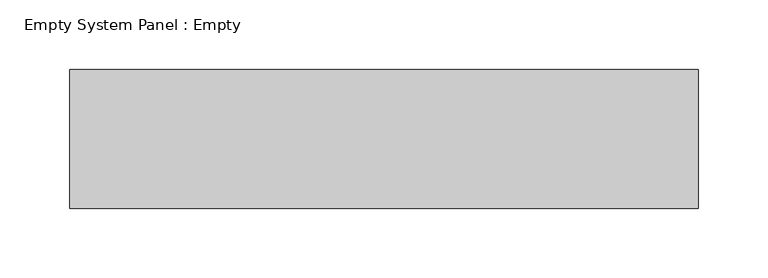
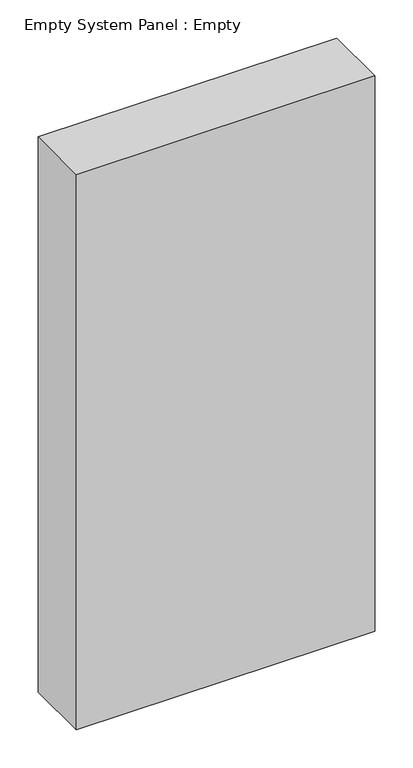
"""IFC4 building model written with IfcOpenShell, lengths in millimetres: plate geometry, Empty System Panel : Empty."""

from ifc_helpers import new_model, si_unit, origin, origin_with_axes, place, context, project, spatial, polyline, outline, extrude, source, transform, mapped, element, save


def empty_system_panel_empty_352b8546(model_context):
    return source(origin(), model_context, "Body", "SweptSolid", [
        extrude(outline(polyline([(226.25, -50.0), (-226.25, -50.0), (-226.25, 50.0), (226.25, 50.0), (226.25, -50.0)])), origin_with_axes(), (0.0, 0.0, 1.0), 890.0),
    ])


if __name__ == "__main__":
    model = new_model("IFC4")
    model_context = context("Model", 3, world=origin())
    ifc_project = project(units=[si_unit("LENGTHUNIT", "METRE", prefix="MILLI")], contexts=[model_context])
    site = spatial("IfcSite", under=ifc_project)
    building = spatial("IfcBuilding", under=site)
    placement = place(None, origin())
    empty_system_panel_empty_shape = empty_system_panel_empty_352b8546(model_context)
    element("IfcPlate", 1, ObjectType="Empty System Panel : Empty", at=placement, inside=building, context=model_context, shape_type="MappedRepresentation", body=[
        mapped(empty_system_panel_empty_shape, transform((0.0, 0.0, 0.0), x_axis=(1.0, 0.0, 0.0), y_axis=(0.0, 1.0, 0.0), z_axis=(0.0, 0.0, 1.0))),
    ])
    save(model, "model.ifc")
